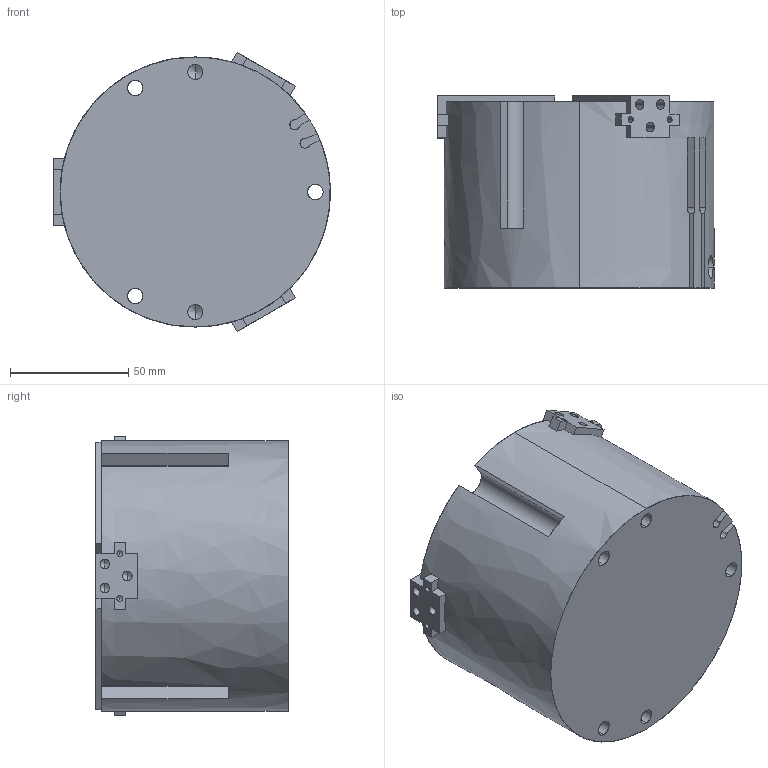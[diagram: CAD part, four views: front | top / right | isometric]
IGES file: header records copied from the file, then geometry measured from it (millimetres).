
Start section: SolidWorks IGES file using analytic representation for surfaces
Global section: file name: C:\Users\jmkuhnes\Pictures\My Transfers\AGP-83\AGP-83 CLOSED in MM.IGS; native system: SolidWorks 2013; preprocessor: SolidWorks 2013; author: jmkuhnes; date: 141105.084556; units: millimetre
Bounding box: 117.09 x 81.28 x 118.05 mm (x, y, z)
Surface area: 81501.1 mm2 (no closed solid volume)
Topology: 0 solids, 0 shells, 252 faces, 3069 edges, 3017 vertices
Faces by surface type: revolution 138, bspline 114
